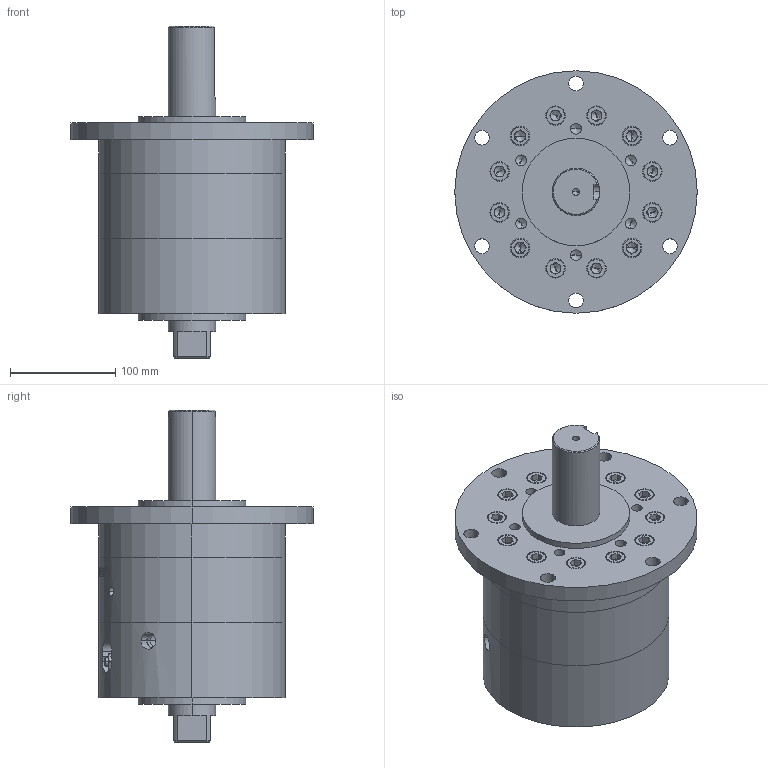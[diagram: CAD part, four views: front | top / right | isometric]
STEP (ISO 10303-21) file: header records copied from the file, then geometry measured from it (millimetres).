
FILE_DESCRIPTION (( 'STEP AP203' ), '1' );
FILE_NAME ('HRN400S-C.STEP', '2016-01-14T17:04:30', ( '' ), ( '' ), 'SwSTEP 2.0', 'SolidWorks 2014', '' );
FILE_SCHEMA (( 'CONFIG_CONTROL_DESIGN' ));
Length unit declared in the file: millimetre
Products named in the file (9): 4; 3.3; 3; 1; 2; mark-400C; HRN400S-C; 5; ISO 4762 M12 x 30
Assembly tree (32 placements, depth 2):
  HRN400S-C
    1
    2
    3
    3.3  x2
    4
    5
    ISO 4762 M12 x 30  x24
    mark-400C
Bounding box: 230 x 230 x 315 mm (x, y, z)
Volume: 5012569.3 mm3; surface area: 491730.3 mm2
Topology: 38 solids, 38 shells, 1047 faces, 2349 edges, 1394 vertices
Faces by surface type: plane 480, cylinder 262, cone 174, torus 96, bspline 35
Entity records: 16618 total; most frequent: CARTESIAN_POINT 5991, DIRECTION 1916, ORIENTED_EDGE 1806, EDGE_CURVE 903, AXIS2_PLACEMENT_3D 782, VERTEX_POINT 587, EDGE_LOOP 488, FACE_OUTER_BOUND 396
